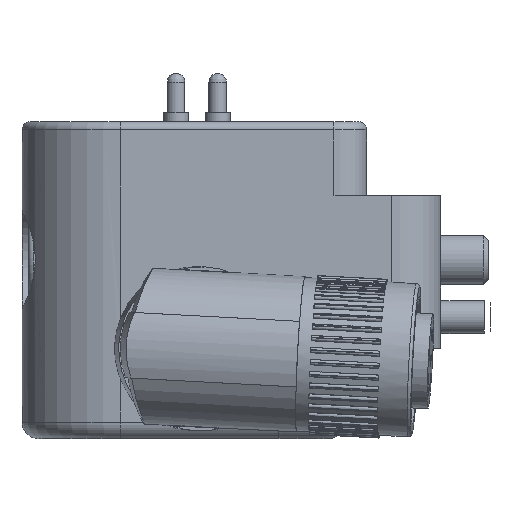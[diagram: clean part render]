
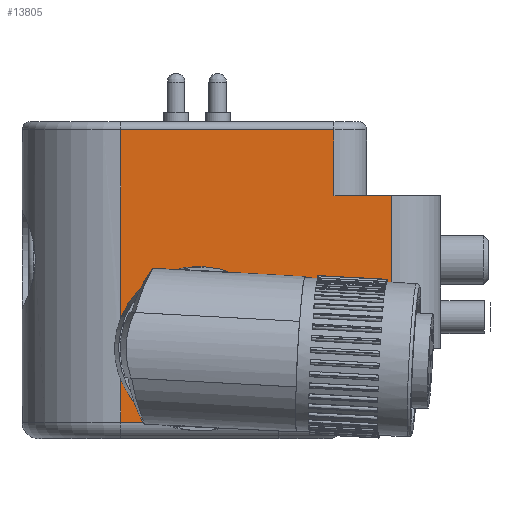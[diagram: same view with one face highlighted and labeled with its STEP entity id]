
A CAD part, left-side view. The second image highlights one B-rep face of the part: STEP entity #13805.
In plain terms, the highlighted planar face has unit normal (-1, 0, 0).
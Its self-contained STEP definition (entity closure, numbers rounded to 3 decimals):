
#774=PLANE('',#14932);
#1351=FACE_OUTER_BOUND('',#2212,.T.);
#2212=EDGE_LOOP('',(#10319,#10320,#10321,#10322,#10323,#10324,#10325,#10326,
#10327,#10328,#10329));
#3165=LINE('',#22038,#4206);
#3170=LINE('',#22066,#4211);
#3184=LINE('',#22142,#4225);
#3193=LINE('',#22160,#4234);
#3194=LINE('',#22164,#4235);
#3195=LINE('',#22169,#4236);
#3196=LINE('',#22171,#4237);
#3197=LINE('',#22173,#4238);
#3198=LINE('',#22174,#4239);
#4206=VECTOR('',#17454,10.);
#4211=VECTOR('',#17491,4.);
#4225=VECTOR('',#17563,10.);
#4234=VECTOR('',#17576,10.);
#4235=VECTOR('',#17581,10.);
#4236=VECTOR('',#17586,10.);
#4237=VECTOR('',#17587,10.);
#4238=VECTOR('',#17588,3.);
#4239=VECTOR('',#17589,10.);
#5151=CIRCLE('',#14933,4.4);
#5152=CIRCLE('',#14934,4.4);
#6088=VERTEX_POINT('',#21963);
#6110=VERTEX_POINT('',#22036);
#6117=VERTEX_POINT('',#22064);
#6129=VERTEX_POINT('',#22097);
#6144=VERTEX_POINT('',#22137);
#6151=VERTEX_POINT('',#22159);
#6152=VERTEX_POINT('',#22163);
#6153=VERTEX_POINT('',#22165);
#6154=VERTEX_POINT('',#22167);
#6155=VERTEX_POINT('',#22170);
#6156=VERTEX_POINT('',#22172);
#7622=EDGE_CURVE('',#6110,#6088,#3165,.T.);
#7636=EDGE_CURVE('',#6117,#6110,#3170,.T.);
#7671=EDGE_CURVE('',#6129,#6144,#3184,.T.);
#7680=EDGE_CURVE('',#6144,#6151,#3193,.T.);
#7682=EDGE_CURVE('',#6152,#6129,#3194,.T.);
#7683=EDGE_CURVE('',#6153,#6152,#5151,.T.);
#7684=EDGE_CURVE('',#6154,#6153,#5152,.T.);
#7685=EDGE_CURVE('',#6088,#6154,#3195,.T.);
#7686=EDGE_CURVE('',#6117,#6155,#3196,.T.);
#7687=EDGE_CURVE('',#6156,#6155,#3197,.T.);
#7688=EDGE_CURVE('',#6156,#6151,#3198,.T.);
#10319=ORIENTED_EDGE('',*,*,#7671,.F.);
#10320=ORIENTED_EDGE('',*,*,#7682,.F.);
#10321=ORIENTED_EDGE('',*,*,#7683,.F.);
#10322=ORIENTED_EDGE('',*,*,#7684,.F.);
#10323=ORIENTED_EDGE('',*,*,#7685,.F.);
#10324=ORIENTED_EDGE('',*,*,#7622,.F.);
#10325=ORIENTED_EDGE('',*,*,#7636,.F.);
#10326=ORIENTED_EDGE('',*,*,#7686,.T.);
#10327=ORIENTED_EDGE('',*,*,#7687,.F.);
#10328=ORIENTED_EDGE('',*,*,#7688,.T.);
#10329=ORIENTED_EDGE('',*,*,#7680,.F.);
#13805=ADVANCED_FACE('',(#1351),#774,.T.);
#14932=AXIS2_PLACEMENT_3D('',#22162,#17579,#17580);
#14933=AXIS2_PLACEMENT_3D('',#22166,#17582,#17583);
#14934=AXIS2_PLACEMENT_3D('',#22168,#17584,#17585);
#17454=DIRECTION('',(0.,1.,0.));
#17491=DIRECTION('',(0.,0.,-1.));
#17563=DIRECTION('',(0.,-1.,0.));
#17576=DIRECTION('',(0.,0.,-1.));
#17579=DIRECTION('center_axis',(-1.,0.,0.));
#17580=DIRECTION('ref_axis',(0.,0.,
1.));
#17581=DIRECTION('',(0.,0.,1.));
#17582=DIRECTION('center_axis',(-1.,0.,0.));
#17583=DIRECTION('ref_axis',(0.,0.,
-1.));
#17584=DIRECTION('center_axis',(-1.,0.,0.));
#17585=DIRECTION('ref_axis',(0.,0.,
-1.));
#17586=DIRECTION('',(0.,0.,1.));
#17587=DIRECTION('',(0.,-1.,0.));
#17588=DIRECTION('',(0.,0.,-1.));
#17589=DIRECTION('',(0.,1.,0.));
#21963=CARTESIAN_POINT('',(-19.,0.65,-4.5));
#22036=CARTESIAN_POINT('',(-19.,-8.999,-4.5));
#22038=CARTESIAN_POINT('',(-19.,-9.1,-4.5));
#22064=CARTESIAN_POINT('',(-19.,-8.999,0.));
#22066=CARTESIAN_POINT('',(-19.,-8.999,-5.5));
#22097=CARTESIAN_POINT('',(-19.,0.65,13.3));
#22137=CARTESIAN_POINT('',(-19.,-12.35,13.3));
#22142=CARTESIAN_POINT('',(-19.,-12.475,13.3));
#22159=CARTESIAN_POINT('',(-19.,-12.35,9.3));
#22160=CARTESIAN_POINT('',(-19.,-12.35,0.));
#22162=CARTESIAN_POINT('Origin',(-19.,-18.85,0.));
#22163=CARTESIAN_POINT('',(-19.,0.65,1.462));
#22164=CARTESIAN_POINT('',(-19.,0.65,0.));
#22165=CARTESIAN_POINT('',(-19.,-3.5,4.4));
#22166=CARTESIAN_POINT('Origin',(-19.,-3.5,0.));
#22167=CARTESIAN_POINT('',(-19.,0.65,-1.462));
#22168=CARTESIAN_POINT('Origin',(-19.,-3.5,0.));
#22169=CARTESIAN_POINT('',(-19.,0.65,-5.5));
#22170=CARTESIAN_POINT('',(-19.,-15.85,0.));
#22171=CARTESIAN_POINT('',(-19.,6.65,0.));
#22172=CARTESIAN_POINT('',(-19.,-15.85,9.3));
#22173=CARTESIAN_POINT('',(-19.,-15.85,0.));
#22174=CARTESIAN_POINT('',(-19.,-18.002,9.3));
